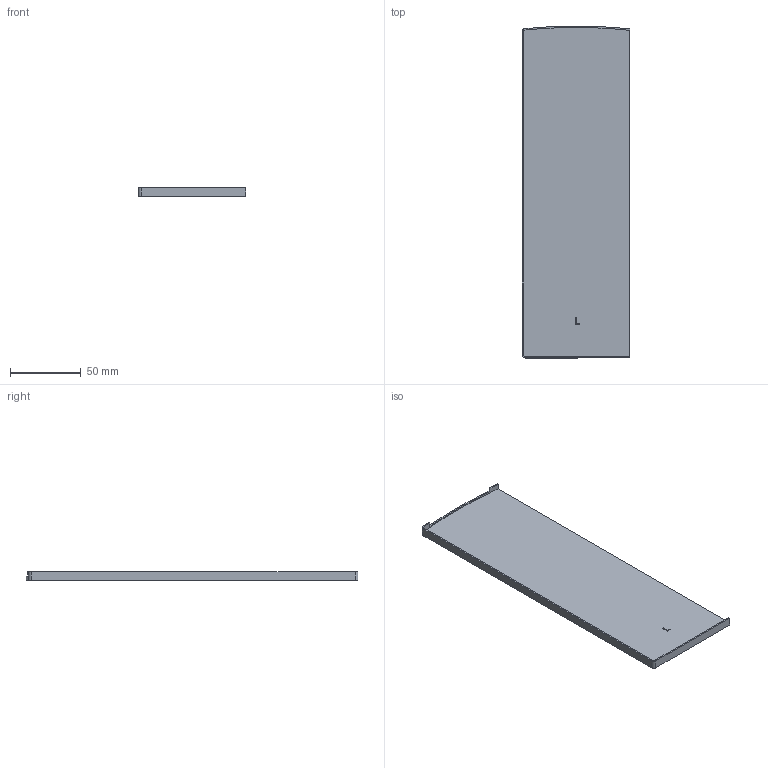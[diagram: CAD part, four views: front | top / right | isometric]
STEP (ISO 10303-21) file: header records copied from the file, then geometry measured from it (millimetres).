
FILE_DESCRIPTION(/* description */ ('TF-3621 endcap left, aluminum mill finish'),/* implementation_level */ '2;1');
FILE_NAME(/* name */ '1036214001x.stp',/* time_stamp */ '2025-11-13T10:31:49+01:00',/* author */ ('nethmini'),/* organization */ (''),/* preprocessor_version */ 'ST-DEVELOPER v19.2',/* originating_system */ 'Autodesk Inventor 2024',/* authorisation */ '');
FILE_SCHEMA (('AUTOMOTIVE_DESIGN { 1 0 10303 214 3 1 1 }'));
Length unit declared in the file: millimetre
Products named in the file (1): 10362140010
Bounding box: 76 x 234.87 x 6 mm (x, y, z)
Volume: 36946.6 mm3; surface area: 39541.1 mm2
Topology: 1 solids, 1 shells, 29 faces, 78 edges, 52 vertices
Faces by surface type: plane 23, cylinder 6
Entity records: 948 total; most frequent: CARTESIAN_POINT 160, ORIENTED_EDGE 156, DIRECTION 150, EDGE_CURVE 78, LINE 66, VECTOR 66, VERTEX_POINT 52, AXIS2_PLACEMENT_3D 42
